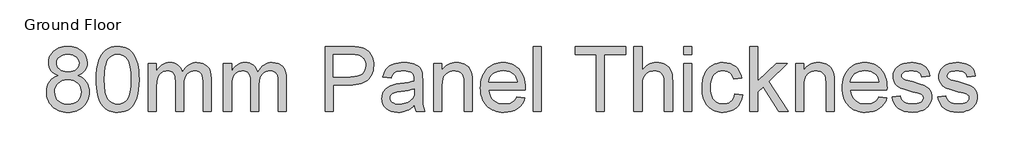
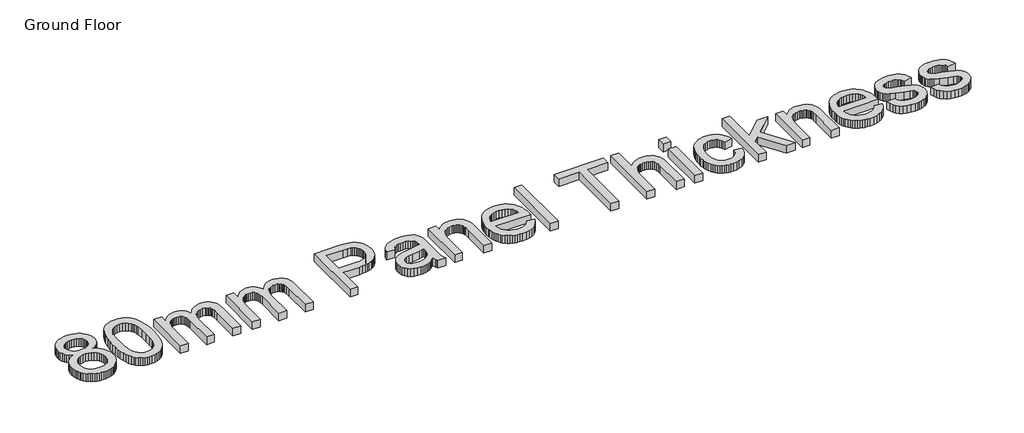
# One storey, part 7 of 8: 1 proxy.
"""IFC4 building model written with IfcOpenShell, lengths in millimetres."""

from ifc_helpers import new_model, si_unit, origin, origin_with_axes, place, context, project, spatial, polyline, outline, extrude, element, save

model = new_model("IFC4")

# Units and contexts
model_context = context("Model", 3, world=origin())
ifc_project = project(units=[si_unit("LENGTHUNIT", "METRE", prefix="MILLI")], contexts=[model_context])

# Site, building, storey
site = spatial("IfcSite", under=ifc_project)
building = spatial("IfcBuilding", under=site)
storey = spatial("IfcBuildingStorey", under=building, Name="Ground Floor", Elevation=0.0)

# Proxy
placement = place(None, origin())
element("IfcBuildingElementProxy", 1, Name="1200mm Arial", ObjectType="1200mm Arial", at=placement, inside=storey, context=model_context, shape_type="SweptSolid", body=[
    extrude(outline(polyline([(-21468.8654482, 11158.451809), (-21511.1251251, 11176.0981158), (-21547.5206329, 11197.1876044), (-21578.0519717, 11221.7202749), (-21602.7191414, 11249.6961271), (-21621.737341, 11280.8461627), (-21635.3217693, 11314.9013828), (-21643.4724262, 11351.8617877), (-21646.1893119, 11391.7273771), (-21640.2713431, 11451.6423274), (-21632.8738822, 11479.7302624), (-21622.5174369, 11506.5718374), (-21609.2020072, 11532.1670522), (-21592.9275931, 11556.515907), (-21551.5018119, 11601.4745362), (-21526.8480921, 11621.3804311), (-21500.2306826, 11638.6322067), (-21471.6495835, 11653.2298629), (-21441.1047948, 11665.1733999), (-21374.1241485, 11681.0981158), (-21299.2887437, 11686.4063544), (-21224.0946741, 11680.9725831), (-21156.6118971, 11664.6712692), (-21125.7622433, 11652.4452837), (-21096.8404127, 11637.5024127), (-21069.8464053, 11619.8426559), (-21044.780221, 11599.4660135), (-21002.6012437, 11553.6286555), (-20986.0309312, 11528.9345859), (-20972.4734028, 11503.0569226), (-20961.9286585, 11475.9956655), (-20954.3966982, 11447.7508146), (-20948.3711301, 11387.7103317), (-20951.0521492, 11349.2525014), (-20959.0952068, 11313.3591243), (-20972.5003026, 11280.0302003), (-20991.2674369, 11249.2657294), (-21015.4862757, 11221.4781761), (-21045.2464852, 11197.080005), (-21080.5480654, 11176.0712159), (-21121.3910164, 11158.451809), (-21073.1057714, 11137.9092841), (-21030.9716272, 11111.861255), (-20994.9885839, 11080.3077216), (-20965.1566414, 11043.248684), (-20941.7447984, 11001.509071), (-20925.0220534, 10955.9138118), (-20914.9884063, 10906.4629063), (-20911.6438573, 10853.1563544), (-20913.3026819, 10815.7565852), (-20918.2791556, 10779.8811413), (-20926.5732785, 10745.5300227), (-20938.1850505, 10712.7032294), (-20953.1144717, 10681.4007614), (-20971.361542, 10651.6226186), (-20992.9262615, 10623.3688011), (-21017.8086301, 10596.639309), (-21045.3989177, 10572.2949375), (-21075.0873943, 10551.1964823), (-21106.8740597, 10533.3439432), (-21140.7589141, 10518.7373203), (-21176.7419575, 10507.3766136), (-21214.8231897, 10499.2618232), (-21255.0026109, 10494.3929489), (-21297.280221, 10492.7699908), (-21339.5578311, 10494.3996738), (-21379.7372522, 10499.288723), (-21417.8184845, 10507.4371383), (-21453.8015278, 10518.8449198), (-21487.6863822, 10533.5120673), (-21519.4730477, 10551.438581), (-21549.1615242, 10572.6244608), (-21576.7518119, 10597.0697067), (-21601.6341805, 10623.9493897), (-21623.1988999, 10652.438581), (-21641.4459703, 10682.5372804), (-21656.3753914, 10714.2454879), (-21667.9871634, 10747.5632037), (-21676.2812863, 10782.4904276), (-21681.25776, 10819.0271596), (-21682.9165846, 10857.1733999), (-21679.4375363, 10912.9099055), (-21669.0003914, 10963.9120362), (-21651.6051499, 11010.1797919), (-21627.2518119, 11051.7131726), (-21596.4783744, 11087.7589823), (-21559.8228346, 11117.5640249), (-21517.2851926, 11141.1283004), (-21468.8654482, 11158.451809)]), holes=[polyline([(-21499.280221, 11387.4233999), (-21496.0253382, 11353.7447777), (-21486.2606897, 11323.2941385), (-21469.9862757, 11296.0714823), (-21447.202096, 11272.076809), (-21418.1950825, 11252.4937124), (-21383.252167, 11238.5057862), (-21342.3733495, 11230.1130305), (-21295.5586301, 11227.3154453), (-21249.9006045, 11230.0950973), (-21209.9094823, 11238.4340533), (-21175.5852636, 11252.3323132), (-21146.9279482, 11271.7898771), (-21124.3320676, 11295.2824198), (-21108.1921528, 11321.2856158), (-21098.5082039, 11349.7994652), (-21095.280221, 11380.823968), (-21098.6158034, 11413.0589645), (-21108.6225505, 11442.6219084), (-21125.3004624, 11469.5127997), (-21148.6495391, 11493.7316385), (-21177.9524511, 11513.7540994), (-21212.4918687, 11528.0558573), (-21252.267792, 11536.6369119), (-21297.280221, 11539.4972635), (-21342.6423481, 11536.6996783), (-21382.6065704, 11528.3069226), (-21417.1728879, 11514.3189965), (-21446.3413005, 11494.7358999), (-21469.5020782, 11471.2433573), (-21486.0454909, 11445.527093), (-21495.9715384, 11417.5871073), (-21499.280221, 11387.4233999)]), polyline([(-21536.0074937, 10862.3381726), (-21529.8743261, 10806.1354027), (-21511.4748232, 10751.7259567), (-21496.8502671, 10726.4849233), (-21477.5092693, 10704.2746073), (-21453.4518296, 10685.0950085), (-21424.6779482, 10668.9461271), (-21393.2947806, 10656.1417948), (-21361.4094823, 10646.995843), (-21329.0220534, 10641.508272), (-21296.1324937, 10639.6790817), (-21243.0142409, 10643.5257614), (-21196.1367551, 10655.0658004), (-21155.5000363, 10674.2991989), (-21121.1040846, 10701.2259567), (-21093.7379624, 10734.0886165), (-21074.1907323, 10771.1297209), (-21062.4623943, 10812.3492699), (-21058.5529482, 10857.7472635), (-21062.5879269, 10903.8715533), (-21074.692863, 10945.8353317), (-21094.8677565, 10983.6385987), (-21123.1126073, 11017.2813544), (-21158.4410874, 11044.8985419), (-21199.8668687, 11064.6251044), (-21247.3899511, 11076.4610419), (-21301.0103346, 11080.4063544), (-21353.3484916, 11076.5148416), (-21399.6072806, 11064.8403033), (-21439.7867018, 11045.3827394), (-21473.8867551, 11018.1421499), (-21501.0645782, 10985.0553246), (-21520.477309, 10948.0590533), (-21532.1249475, 10907.1533359), (-21536.0074937, 10862.3381726)])]), origin_with_axes(), (0.0, 0.0, 1.0), 150.0),
    extrude(outline(polyline([(-20783.0984028, 11089.3012408), (-20780.3994504, 11188.1223523), (-20772.3025931, 11277.4209141), (-20758.8078311, 11357.1969261), (-20739.9151641, 11427.4503885), (-20715.705292, 11488.7551648), (-20686.2589141, 11541.6851186), (-20651.5760306, 11586.24025), (-20611.6566414, 11622.420559), (-20566.3662472, 11650.4143445), (-20515.5703488, 11670.4099055), (-20459.2689461, 11682.4072422), (-20397.4620391, 11686.4063544), (-20351.0149511, 11684.0391669), (-20306.9350505, 11676.9376044), (-20265.2223374, 11665.1016669), (-20225.8768119, 11648.5313544), (-20189.8489355, 11627.5046321), (-20158.0891698, 11602.2994652), (-20130.597515, 11572.9158537), (-20107.373971, 11539.3537976), (-20087.2528772, 11501.7477962), (-20069.0685732, 11460.2323487), (-20038.5103346, 11365.4731158), (-20026.8357963, 11309.7455767), (-20018.4968403, 11245.1410845), (-20013.4934667, 11171.6596392), (-20011.8256755, 11089.3012408), (-20014.4977281, 10991.1077926), (-20022.5138857, 10902.2575618), (-20035.8741485, 10822.7505483), (-20054.5785164, 10752.5867521), (-20078.6000896, 10691.255076), (-20107.9119681, 10638.2444226), (-20142.5141521, 10593.5547919), (-20182.4066414, 10557.186184), (-20227.7508353, 10529.0040994), (-20278.7081329, 10508.8740391), (-20335.2785342, 10496.7960029), (-20397.4620391, 10492.7699908), (-20439.0671528, 10494.5184815), (-20478.3768119, 10499.7639538), (-20515.3910164, 10508.5064077), (-20550.1097664, 10520.745843), (-20582.5330619, 10536.48226), (-20612.6609028, 10555.7156584), (-20640.4932891, 10578.4460384), (-20666.030221, 10604.6733999), (-20693.4680761, 10646.2022972), (-20717.2475505, 10693.1739325), (-20737.3686443, 10745.5883058), (-20753.8313573, 10803.4454169), (-20766.6356897, 10866.745266), (-20775.7816414, 10935.487853), (-20781.2692124, 11009.6731779), (-20783.0984028, 11089.3012408)]), holes=[polyline([(-20636.1893119, 11089.5881726), (-20631.8853346, 10961.8766136), (-20618.9734028, 10858.5004595), (-20609.2894539, 10815.9381593), (-20597.4535164, 10779.4597102), (-20583.4655903, 10749.0651124), (-20567.3256755, 10724.7543658), (-20530.8853346, 10687.533929), (-20490.4279482, 10660.9479027), (-20445.9535164, 10644.9962869), (-20397.4620391, 10639.6790817), (-20348.9705619, 10645.0142202), (-20304.4961301, 10661.0196357), (-20264.0387437, 10687.6953281), (-20227.5984028, 10725.0412976), (-20211.458488, 10749.4103272), (-20197.4705619, 10779.8363082), (-20185.6346244, 10816.3192406), (-20175.9506755, 10858.8591243), (-20163.0387437, 10962.1097457), (-20158.7347664, 11089.5881726), (-20162.8952778, 11213.9193161), (-20175.3768119, 11315.4752465), (-20184.7379624, 11357.7125068), (-20196.1793687, 11394.2559638), (-20209.7010306, 11425.1056176), (-20225.3029482, 11450.261468), (-20261.133559, 11489.3021286), (-20302.0572096, 11517.1883146), (-20348.0738999, 11533.9200263), (-20399.1836301, 11539.4972635), (-20447.424042, 11534.5835561), (-20491.1452778, 11519.842434), (-20530.3473374, 11495.273897), (-20565.030221, 11460.8779453), (-20581.7081329, 11433.045559), (-20596.1623232, 11399.904934), (-20608.392792, 11361.4560703), (-20618.3995391, 11317.698968), (-20631.7418687, 11214.2600476), (-20636.1893119, 11089.5881726)])]), origin_with_axes(), (0.0, 0.0, 1.0), 150.0),
    extrude(outline(polyline([(-19846.5529482, 10511.1336271), (-19846.5529482, 11374.2245362), (-19699.6438573, 11374.2245362), (-19699.6438573, 11232.1932862), (-19679.1282323, 11266.5802713), (-19655.4563573, 11297.4344084), (-19628.6282323, 11324.7556975), (-19598.6438573, 11348.5441385), (-19565.9874298, 11367.8134034), (-19531.1431471, 11381.5771641), (-19494.1110093, 11389.8354205), (-19454.8910164, 11392.5881726), (-19412.0126428, 11389.7816207), (-19373.1871812, 11381.3619652), (-19338.4146315, 11367.329206), (-19307.6949937, 11347.683343), (-19281.117934, 11322.9803068), (-19258.7731187, 11293.7760277), (-19240.6605477, 11260.0705057), (-19226.780221, 11221.8637408), (-19200.9473907, 11261.8772795), (-19173.2315704, 11296.5556797), (-19143.63276, 11325.8989414), (-19112.1509596, 11349.9070646), (-19078.7861691, 11368.5800494), (-19043.5383886, 11381.9178956), (-19006.407618, 11389.9206033), (-18967.3938573, 11392.5881726), (-18908.5818012, 11388.149696), (-18856.9609738, 11374.8342663), (-18812.5313751, 11352.6418835), (-18775.2930051, 11321.5725476), (-18745.8555938, 11281.2675938), (-18724.8288715, 11231.3683573), (-18712.2128382, 11171.8748381), (-18708.0074937, 11102.7870362), (-18708.0074937, 10511.1336271), (-18854.9165846, 10511.1336271), (-18854.9165846, 11039.6620362), (-18858.3238999, 11112.9372493), (-18868.545846, 11162.3253885), (-18876.741336, 11180.1420611), (-18887.6985448, 11196.1474766), (-18901.4174724, 11210.341635), (-18917.8981187, 11222.7245362), (-18936.5397203, 11232.7671499), (-18956.7415136, 11239.9404453), (-19001.8256755, 11245.6790817), (-19043.457689, 11242.0027678), (-19081.4133886, 11230.973826), (-19115.6927742, 11212.5922564), (-19146.295846, 11186.858059), (-19171.4651464, 11153.0180377), (-19189.4432181, 11110.3189965), (-19200.2300612, 11058.7609354), (-19203.8256755, 10998.3438544), (-19203.8256755, 10511.1336271), (-19350.7347664, 10511.1336271), (-19350.7347664, 11056.0171499), (-19352.8598552, 11100.5274482), (-19359.2351215, 11139.0839112), (-19369.8605654, 11171.6865391), (-19384.7361869, 11198.3353317), (-19404.4537828, 11219.0482223), (-19429.6051499, 11233.8431442), (-19460.1902884, 11242.7200973), (-19496.2091982, 11245.6790817), (-19525.0637792, 11243.7064254), (-19552.8064994, 11237.7884567), (-19579.4373588, 11227.9251754), (-19604.9563573, 11214.1165817), (-19628.1978346, 11196.5061413), (-19647.9961301, 11175.2373203), (-19664.3512437, 11150.3101186), (-19677.2631755, 11121.7245362), (-19687.0547238, 11087.9562479), (-19694.0486869, 11047.4809283), (-19699.6438573, 10946.4091953), (-19699.6438573, 10511.1336271), (-19846.5529482, 10511.1336271)])), origin_with_axes(), (0.0, 0.0, 1.0), 150.0),
    extrude(outline(polyline([(-18487.6438573, 10511.1336271), (-18487.6438573, 11374.2245362), (-18340.7347664, 11374.2245362), (-18340.7347664, 11232.1932862), (-18320.2191414, 11266.5802713), (-18296.5472664, 11297.4344084), (-18269.7191414, 11324.7556975), (-18239.7347664, 11348.5441385), (-18207.0783389, 11367.8134034), (-18172.2340562, 11381.5771641), (-18135.2019184, 11389.8354205), (-18095.9819255, 11392.5881726), (-18053.1035519, 11389.7816207), (-18014.2780903, 11381.3619652), (-17979.5055406, 11367.329206), (-17948.7859028, 11347.683343), (-17922.2088431, 11322.9803068), (-17899.8640278, 11293.7760277), (-17881.7514568, 11260.0705057), (-17867.8711301, 11221.8637408), (-17842.0382998, 11261.8772795), (-17814.3224795, 11296.5556797), (-17784.7236691, 11325.8989414), (-17753.2418687, 11349.9070646), (-17719.8770782, 11368.5800494), (-17684.6292977, 11381.9178956), (-17647.4985271, 11389.9206033), (-17608.4847664, 11392.5881726), (-17549.6727103, 11388.149696), (-17498.0518829, 11374.8342663), (-17453.6222842, 11352.6418835), (-17416.3839141, 11321.5725476), (-17386.9465029, 11281.2675938), (-17365.9197806, 11231.3683573), (-17353.3037472, 11171.8748381), (-17349.0984028, 11102.7870362), (-17349.0984028, 10511.1336271), (-17496.0074937, 10511.1336271), (-17496.0074937, 11039.6620362), (-17499.414809, 11112.9372493), (-17509.6367551, 11162.3253885), (-17517.8322451, 11180.1420611), (-17528.7894539, 11196.1474766), (-17542.5083815, 11210.341635), (-17558.9890278, 11222.7245362), (-17577.6306293, 11232.7671499), (-17597.8324227, 11239.9404453), (-17642.9165846, 11245.6790817), (-17684.5485981, 11242.0027678), (-17722.5042977, 11230.973826), (-17756.7836833, 11212.5922564), (-17787.3867551, 11186.858059), (-17812.5560555, 11153.0180377), (-17830.5341272, 11110.3189965), (-17841.3209703, 11058.7609354), (-17844.9165846, 10998.3438544), (-17844.9165846, 10511.1336271), (-17991.8256755, 10511.1336271), (-17991.8256755, 11056.0171499), (-17993.9507643, 11100.5274482), (-18000.3260306, 11139.0839112), (-18010.9514745, 11171.6865391), (-18025.827096, 11198.3353317), (-18045.5446918, 11219.0482223), (-18070.696059, 11233.8431442), (-18101.2811975, 11242.7200973), (-18137.3001073, 11245.6790817), (-18166.1546883, 11243.7064254), (-18193.8974085, 11237.7884567), (-18220.5282678, 11227.9251754), (-18246.0472664, 11214.1165817), (-18269.2887437, 11196.5061413), (-18289.0870391, 11175.2373203), (-18305.4421528, 11150.3101186), (-18318.3540846, 11121.7245362), (-18328.1456329, 11087.9562479), (-18335.139596, 11047.4809283), (-18340.7347664, 10946.4091953), (-18340.7347664, 10511.1336271), (-18487.6438573, 10511.1336271)])), origin_with_axes(), (0.0, 0.0, 1.0), 150.0),
    extrude(outline(polyline([(-16651.280221, 10511.1336271), (-16651.280221, 11686.4063544), (-16215.717721, 11686.4063544), (-16114.2873232, 11683.6087692), (-16040.1154482, 11675.2160135), (-15999.2366308, 11666.4018267), (-15961.8189284, 11654.3058573), (-15927.862341, 11638.9281051), (-15897.3668687, 11620.2685703), (-15870.0097132, 11597.9416882), (-15845.4680761, 11571.5618942), (-15823.7419575, 11541.1291882), (-15804.8313573, 11506.6435703), (-15789.5163715, 11469.2438011), (-15778.577096, 11430.0686413), (-15772.0135306, 11389.1180909), (-15769.8256755, 11346.3921499), (-15775.7346776, 11274.2467308), (-15783.1209303, 11240.3394599), (-15793.461684, 11207.8758146), (-15806.7569388, 11176.8557951), (-15823.0066947, 11147.2794013), (-15842.2109516, 11119.1466332), (-15864.3697096, 11092.4574908), (-15890.3841139, 11068.1131193), (-15921.1553097, 11047.0146641), (-15956.6832971, 11029.162125), (-15996.9680761, 11014.5555021), (-16042.0096466, 11003.1947955), (-16091.8080086, 10995.080005), (-16146.3631622, 10990.2111307), (-16205.6751073, 10988.5881726), (-16504.3711301, 10988.5881726), (-16504.3711301, 10511.1336271), (-16651.280221, 10511.1336271)]), holes=[polyline([(-16504.3711301, 11135.4972635), (-16197.0671528, 11135.4972635), (-16126.4101926, 11138.8687124), (-16066.8001073, 11148.983059), (-16018.2368971, 11165.8403033), (-15980.7205619, 11189.4404453), (-15952.7267764, 11219.1558217), (-15932.7312153, 11254.3587692), (-15920.7338786, 11295.0492877), (-15916.7347664, 11341.2273771), (-15919.0929873, 11375.5157294), (-15926.1676499, 11407.2216953), (-15937.9587543, 11436.3452749), (-15954.4663005, 11462.886468), (-15974.8115597, 11485.9844794), (-15998.1158034, 11504.7785135), (-16024.3790313, 11519.2685703), (-16053.6012437, 11529.4546499), (-16110.2702778, 11536.9866101), (-16200.5103346, 11539.4972635), (-16504.3711301, 11539.4972635), (-16504.3711301, 11135.4972635)])]), origin_with_axes(), (0.0, 0.0, 1.0), 150.0),
    extrude(outline(polyline([(-15035.280221, 10621.3154453), (-15070.115537, 10588.6231513), (-15105.470917, 10561.1314965), (-15141.3463609, 10538.8404808), (-15177.7418687, 10521.7501044), (-15215.0699049, 10509.0713047), (-15253.742934, 10500.0150192), (-15293.7609561, 10494.5812479), (-15335.123971, 10492.7699908), (-15400.5354589, 10497.1277678), (-15457.8949227, 10510.2010987), (-15507.2023623, 10531.9899837), (-15548.4577778, 10562.4944226), (-15581.0335058, 10599.7776257), (-15604.3018829, 10641.9028033), (-15618.2629092, 10688.8699553), (-15622.9165846, 10740.6790817), (-15621.1591272, 10771.8291172), (-15615.8867551, 10801.5803601), (-15607.0994681, 10829.9328104), (-15594.7972664, 10856.886468), (-15579.6347132, 10881.8495362), (-15562.2663715, 10904.230218), (-15542.6922416, 10924.0285135), (-15520.9123232, 10941.2444226), (-15472.3132465, 10969.2202749), (-15418.0472664, 10989.448968), (-15365.1800789, 11000.7110419), (-15290.936471, 11011.542718), (-15140.7276641, 11034.7841953), (-15082.7315704, 11047.911326), (-15036.1410164, 11062.042718), (-15035.280221, 11094.7529453), (-15037.8088076, 11130.3683573), (-15045.3945676, 11160.3168658), (-15058.0375008, 11184.5984709), (-15075.7376073, 11203.2131726), (-15106.3317124, 11221.7920078), (-15143.5969823, 11235.0626044), (-15187.533417, 11243.0249624), (-15238.1410164, 11245.6790817), (-15285.1978346, 11243.9126577), (-15325.655221, 11238.6133857), (-15359.5131755, 11229.7812656), (-15386.7716982, 11217.4162976), (-15409.1703133, 11200.5500867), (-15428.4485448, 11178.2142379), (-15444.6063928, 11150.4087514), (-15457.6438573, 11117.1336271), (-15604.5529482, 11135.4972635), (-15593.371574, 11177.8197067), (-15579.0518829, 11215.8381726), (-15561.5938751, 11249.5526612), (-15540.9975505, 11278.9631726), (-15516.3752139, 11304.6615036), (-15486.8391698, 11327.239451), (-15452.3894184, 11346.6970149), (-15413.0259596, 11363.0341953), (-15369.5468225, 11375.9640604), (-15322.7500363, 11385.1996783), (-15272.6356009, 11390.741049), (-15219.2035164, 11392.5881726), (-15166.9729589, 11390.9562479), (-15119.8892409, 11386.0604737), (-15077.9523623, 11377.9008502), (-15041.1623232, 11366.4773771), (-15009.2142586, 11352.5880838), (-14981.8033034, 11337.0309993), (-14958.9294575, 11319.8061236), (-14940.592721, 11300.9134567), (-14925.7260661, 11279.8867344), (-14913.2624653, 11256.2596925), (-14895.5444255, 11201.2046499), (-14890.1644539, 11150.417718), (-14888.3711301, 11072.6591953), (-14888.3711301, 10889.8836271), (-14886.5060732, 10730.6723345), (-14880.9109028, 10634.6577749), (-14869.8640278, 10571.5686413), (-14851.6438573, 10511.1336271), (-14998.5529482, 10511.1336271), (-15011.608346, 10535.6662976), (-15022.0813573, 10562.2074908), (-15035.280221, 10621.3154453)]), holes=[polyline([(-15035.280221, 10915.1336271), (-15079.6829198, 10902.4189609), (-15133.9847664, 10890.6726896), (-15272.2859028, 10870.0853317), (-15348.502167, 10858.8232578), (-15398.6793687, 10846.2699908), (-15431.5689284, 10829.9866101), (-15455.9222664, 10807.5341953), (-15470.9861869, 10780.6343374), (-15476.0074937, 10751.0086271), (-15473.2726748, 10728.1796144), (-15465.0682181, 10707.3232578), (-15451.3941237, 10688.4395575), (-15432.2503914, 10671.5285135), (-15407.8163538, 10657.5943871), (-15378.2713431, 10647.6414396), (-15343.6153595, 10641.6696712), (-15303.8484028, 10639.6790817), (-15263.2475505, 10641.8759034), (-15224.9421528, 10648.4663686), (-15188.9322096, 10659.4504773), (-15155.217721, 10674.8282294), (-15124.8029482, 10693.3263651), (-15098.6921528, 10713.6716243), (-15076.8853346, 10735.8640071), (-15059.3824937, 10759.9035135), (-15049.2143474, 10781.4233999), (-15041.9513857, 10807.5341953), (-15037.5936088, 10838.2358999), (-15036.1410164, 10873.5285135), (-15035.280221, 10915.1336271)])]), origin_with_axes(), (0.0, 0.0, 1.0), 150.0),
    extrude(outline(polyline([(-14686.3711301, 10511.1336271), (-14686.3711301, 11374.2245362), (-14539.4620391, 11374.2245362), (-14539.4620391, 11253.7131726), (-14515.2252671, 11286.2620007), (-14488.424042, 11314.4709851), (-14459.0583637, 11338.3401257), (-14427.1282323, 11357.8694226), (-14392.6336478, 11373.0588757), (-14355.5746102, 11383.9084851), (-14315.9511194, 11390.4182507), (-14273.7631755, 11392.5881726), (-14236.7938041, 11390.8396818), (-14201.3487579, 11385.5942095), (-14167.428037, 11376.8517557), (-14135.0316414, 11364.6123203), (-14105.387998, 11349.5304666), (-14079.7255335, 11332.2607578), (-14058.044248, 11312.8031939), (-14040.3441414, 11291.1577749), (-14013.6236159, 11241.4109709), (-13996.3001073, 11183.1279453), (-13990.489738, 11127.3914396), (-13988.5529482, 11041.0966953), (-13988.5529482, 10511.1336271), (-14135.4620391, 10511.1336271), (-14135.4620391, 11021.2983999), (-14139.6942835, 11097.2635987), (-14144.9845889, 11127.0148416), (-14152.3910164, 11151.2785135), (-14162.4784632, 11171.7134389), (-14175.8118261, 11189.9784425), (-14192.3911052, 11206.0735242), (-14212.2163005, 11219.998684), (-14234.605949, 11231.233858), (-14258.8785874, 11239.2589823), (-14285.034216, 11244.0740568), (-14313.0728346, 11245.6790817), (-14357.6817657, 11242.0745007), (-14399.1165136, 11231.2607578), (-14437.3770782, 11213.237853), (-14472.4634596, 11188.0057862), (-14488.1662517, 11171.9689876), (-14501.7753382, 11152.6952394), (-14513.290719, 11130.1845416), (-14522.7123943, 11104.4368942), (-14535.2746279, 11043.2307507), (-14539.4620391, 10969.076809), (-14539.4620391, 10511.1336271), (-14686.3711301, 10511.1336271)])), origin_with_axes(), (0.0, 0.0, 1.0), 150.0),
    extrude(outline(polyline([(-13182.2745391, 10768.2245362), (-13038.2347664, 10749.8608999), (-13060.3195498, 10692.1696712), (-13090.133559, 10641.3289396), (-13127.6767941, 10597.3387053), (-13172.9492551, 10560.198968), (-13225.4846776, 10530.6987905), (-13284.8167977, 10509.6272351), (-13350.9456151, 10496.9843019), (-13423.8711301, 10492.7699908), (-13470.6903328, 10494.5879728), (-13515.025782, 10500.041919), (-13556.8774777, 10509.1318294), (-13596.2454198, 10521.8577038), (-13633.1296084, 10538.2195424), (-13667.5300434, 10558.2173452), (-13699.4467249, 10581.851112), (-13728.8796528, 10609.120843), (-13755.3087632, 10639.6723567), (-13778.2139923, 10673.1514716), (-13797.5953399, 10709.5581877), (-13813.4528062, 10748.892505), (-13825.7863911, 10791.1544235), (-13834.5960945, 10836.3439432), (-13839.8819166, 10884.4610641), (-13841.6438573, 10935.5057862), (-13839.8639834, 10988.2877908), (-13834.5243616, 11038.0301115), (-13825.6249919, 11084.7327482), (-13813.1658744, 11128.395701), (-13797.147009, 11169.0189698), (-13777.5683957, 11206.6025547), (-13754.4300345, 11241.1464556), (-13727.7319255, 11272.6506726), (-13698.1958815, 11300.7610242), (-13666.5437153, 11325.1233288), (-13632.7754269, 11345.7375867), (-13596.8910164, 11362.6037976), (-13558.8904838, 11375.7219617), (-13518.7738289, 11385.0920788), (-13476.5410519, 11390.7141492), (-13432.1921528, 11392.5881726), (-13389.2936043, 11390.7186325), (-13348.3990953, 11385.1100121), (-13309.5086256, 11375.7623114), (-13272.6221954, 11362.6755305), (-13237.7398046, 11345.8496694), (-13204.8614532, 11325.284728), (-13173.9871412, 11300.9807063), (-13145.1168687, 11272.9376044), (-13118.9903817, 11241.5051204), (-13096.3474262, 11207.0329524), (-13077.1880024, 11169.5211005), (-13061.5121102, 11128.9695646), (-13049.3197496, 11085.3783448), (-13040.6109205, 11038.7474411), (-13035.3856231, 10989.0768533), (-13033.6438573, 10936.3665817), (-13034.5046528, 10896.7699908), (-13694.7347664, 10896.7699908), (-13686.2254447, 10838.1462337), (-13669.305434, 10786.8033715), (-13643.9747345, 10742.7414041), (-13610.233346, 10705.9603317), (-13569.9463254, 10676.9622848), (-13524.9787295, 10656.2493942), (-13475.3305583, 10643.8216598), (-13421.0018119, 10639.6790817), (-13380.3650931, 10641.5979382), (-13342.8128914, 10647.3545078), (-13308.3452068, 10656.9487905), (-13276.9620391, 10670.3807862), (-13248.6633886, 10688.0091598), (-13223.4492551, 10710.192576), (-13201.3196386, 10736.9310348), (-13182.2745391, 10768.2245362)]), holes=[polyline([(-13694.7347664, 11043.6790817), (-13180.5529482, 11043.6790817), (-13188.1028417, 11085.2483288), (-13200.4229766, 11121.2941385), (-13217.5133531, 11151.8165107), (-13239.373971, 11176.8154453), (-13279.4368261, 11206.9432862), (-13325.0231187, 11228.4631726), (-13376.1328488, 11241.3751044), (-13432.7660164, 11245.6790817), (-13484.4227103, 11242.2448665), (-13531.7933602, 11231.9422209), (-13574.877966, 11214.7711449), (-13613.6765278, 11190.7316385), (-13646.2343225, 11160.9355625), (-13670.5966272, 11126.4947777), (-13686.7634418, 11087.4092841), (-13694.7347664, 11043.6790817)])]), origin_with_axes(), (0.0, 0.0, 1.0), 150.0),
    extrude(outline(polyline([(-12886.7347664, 10511.1336271), (-12886.7347664, 11686.4063544), (-12739.8256755, 11686.4063544), (-12739.8256755, 10511.1336271), (-12886.7347664, 10511.1336271)])), origin_with_axes(), (0.0, 0.0, 1.0), 150.0),
    extrude(outline(polyline([(-11748.1893119, 10511.1336271), (-11748.1893119, 11539.4972635), (-12133.8256755, 11539.4972635), (-12133.8256755, 11686.4063544), (-11215.6438573, 11686.4063544), (-11215.6438573, 11539.4972635), (-11601.280221, 11539.4972635), (-11601.280221, 10511.1336271), (-11748.1893119, 10511.1336271)])), origin_with_axes(), (0.0, 0.0, 1.0), 150.0),
    extrude(outline(polyline([(-11068.7347664, 10511.1336271), (-11068.7347664, 11686.4063544), (-10921.8256755, 11686.4063544), (-10921.8256755, 11254.2870362), (-10895.6745303, 11286.7013651), (-10867.8645605, 11314.7937834), (-10838.3957661, 11338.5642912), (-10807.2681471, 11358.0128885), (-10774.4817036, 11373.1395753), (-10740.0364355, 11383.9443516), (-10703.9323428, 11390.4272173), (-10666.1694255, 11392.5881726), (-10620.2424014, 11390.2299517), (-10577.4357607, 11383.1552891), (-10537.7495036, 11371.3641847), (-10501.1836301, 11354.8566385), (-10468.6706684, 11334.188581), (-10441.1431471, 11309.9159425), (-10418.6010661, 11282.038723), (-10401.0444255, 11250.5569226), (-10387.8634951, 11213.5247848), (-10378.4485448, 11168.9965533), (-10372.7995747, 11116.972228), (-10370.9165846, 11057.451809), (-10370.9165846, 10511.1336271), (-10517.8256755, 10511.1336271), (-10517.8256755, 11042.2444226), (-10520.7487934, 11091.8477607), (-10529.5181471, 11134.2060703), (-10544.1337366, 11169.3193516), (-10564.5955619, 11197.1876044), (-10590.4194255, 11218.4026257), (-10621.1211301, 11233.5562124), (-10656.7006755, 11242.6483644), (-10697.1580619, 11245.6790817), (-10728.6757288, 11243.6346925), (-10759.242934, 11237.5015249), (-10788.8596776, 11227.2795788), (-10817.5259596, 11212.9688544), (-10843.6905548, 11195.1611484), (-10865.802238, 11174.4482578), (-10883.8610093, 11150.8301825), (-10897.8668687, 11124.3069226), (-10908.3488467, 11093.6590178), (-10915.8359738, 11057.6670078), (-10920.3282501, 11016.3308928), (-10921.8256755, 10969.6506726), (-10921.8256755, 10511.1336271), (-11068.7347664, 10511.1336271)])), origin_with_axes(), (0.0, 0.0, 1.0), 150.0),
    extrude(outline(polyline([(-10168.9165846, 10511.1336271), (-10168.9165846, 11374.2245362), (-10022.0074937, 11374.2245362), (-10022.0074937, 10511.1336271), (-10168.9165846, 10511.1336271)])), origin_with_axes(), (0.0, 0.0, 1.0), 150.0),
    extrude(outline(polyline([(-10168.9165846, 11539.4972635), (-10168.9165846, 11686.4063544), (-10022.0074937, 11686.4063544), (-10022.0074937, 11539.4972635), (-10168.9165846, 11539.4972635)])), origin_with_axes(), (0.0, 0.0, 1.0), 150.0),
    extrude(outline(polyline([(-9250.7347664, 10823.3154453), (-9103.8256755, 10804.951809), (-9119.8041911, 10735.630875), (-9144.7851926, 10674.2902323), (-9178.7686798, 10620.9298807), (-9221.7546528, 10575.5498203), (-9271.9318545, 10539.3336449), (-9327.4890278, 10513.4649482), (-9388.4261727, 10497.9437301), (-9454.7432891, 10492.7699908), (-9497.0052077, 10494.5745229), (-9537.1375541, 10499.9881193), (-9575.1403284, 10509.01078), (-9611.0135306, 10521.642505), (-9644.7571608, 10537.8832942), (-9676.3712188, 10557.7331477), (-9705.8557048, 10581.1920655), (-9733.2106187, 10608.2600476), (-9757.8576135, 10638.6994785), (-9779.2183424, 10672.2727429), (-9797.2928053, 10708.9798407), (-9812.0810022, 10748.820772), (-9823.5829331, 10791.7955368), (-9831.7985981, 10837.904135), (-9836.7279971, 10887.1465666), (-9838.3711301, 10939.5228317), (-9835.5645782, 11007.068375), (-9827.1449227, 11070.2561413), (-9813.1121634, 11129.0861307), (-9793.4663005, 11183.558343), (-9768.0728346, 11232.5788509), (-9736.7972664, 11275.0537266), (-9699.639596, 11310.9829702), (-9656.5998232, 11340.3665817), (-9609.6237046, 11363.2135277), (-9560.6569965, 11379.5327749), (-9509.699699, 11389.3243232), (-9456.7518119, 11392.5881726), (-9391.5734561, 11388.1048629), (-9332.617934, 11374.654934), (-9279.8852458, 11352.2383857), (-9233.3753914, 11320.855218), (-9193.8774333, 11281.2227607), (-9162.180434, 11234.058343), (-9138.2843936, 11179.3619652), (-9122.1893119, 11117.1336271), (-9269.0984028, 11098.7699908), (-9280.5667089, 11133.0852429), (-9295.7471954, 11162.8633857), (-9314.6398623, 11188.104419), (-9337.2447096, 11208.808343), (-9362.9878737, 11224.9392912), (-9391.2954909, 11236.461397), (-9422.1675612, 11243.3746605), (-9455.6040846, 11245.6790817), (-9505.5212543, 11241.1419723), (-9550.5426499, 11227.5306442), (-9590.6682714, 11204.8450973), (-9625.8981187, 11173.0853317), (-9641.2646626, 11153.6188011), (-9654.5823339, 11131.5160845), (-9675.071059, 11079.402093), (-9687.3642941, 11016.7433573), (-9691.4620391, 10943.5398771), (-9687.4539603, 10869.2335029), (-9675.4297238, 10805.8484709), (-9655.3893296, 10753.3847813), (-9642.3630734, 10731.2484398), (-9627.3327778, 10711.842434), (-9592.8023268, 10680.2709673), (-9553.3402352, 10657.7199198), (-9508.9465029, 10644.1892912), (-9459.6211301, 10639.6790817), (-9419.8721066, 10642.4946002), (-9383.5483318, 10650.9411555), (-9350.6498055, 10665.0187479), (-9321.1765278, 10684.7273771), (-9295.9534276, 10710.2822422), (-9275.805434, 10741.8985419), (-9260.732547, 10779.5762763), (-9250.7347664, 10823.3154453)])), origin_with_axes(), (0.0, 0.0, 1.0), 150.0),
    extrude(outline(polyline([(-8975.280221, 10511.1336271), (-8975.280221, 11686.4063544), (-8828.3711301, 11686.4063544), (-8828.3711301, 11054.8694226), (-8498.9734028, 11374.2245362), (-8295.8256755, 11374.2245362), (-8629.2404482, 11050.8523771), (-8277.4620391, 10511.1336271), (-8449.0472664, 10511.1336271), (-8734.5444255, 10948.7046499), (-8828.3711301, 10857.7472635), (-8828.3711301, 10511.1336271), (-8975.280221, 10511.1336271)])), origin_with_axes(), (0.0, 0.0, 1.0), 150.0),
    extrude(outline(polyline([(-8148.9165846, 10511.1336271), (-8148.9165846, 11374.2245362), (-8002.0074937, 11374.2245362), (-8002.0074937, 11253.7131726), (-7977.7707217, 11286.2620007), (-7950.9694965, 11314.4709851), (-7921.6038183, 11338.3401257), (-7889.6736869, 11357.8694226), (-7855.1791024, 11373.0588757), (-7818.1200647, 11383.9084851), (-7778.496574, 11390.4182507), (-7736.3086301, 11392.5881726), (-7699.3392586, 11390.8396818), (-7663.8942124, 11385.5942095), (-7629.9734916, 11376.8517557), (-7597.577096, 11364.6123203), (-7567.9334525, 11349.5304666), (-7542.270988, 11332.2607578), (-7520.5897025, 11312.8031939), (-7502.889596, 11291.1577749), (-7476.1690704, 11241.4109709), (-7458.8455619, 11183.1279453), (-7453.0351926, 11127.3914396), (-7451.0984028, 11041.0966953), (-7451.0984028, 10511.1336271), (-7598.0074937, 10511.1336271), (-7598.0074937, 11021.2983999), (-7602.239738, 11097.2635987), (-7607.5300434, 11127.0148416), (-7614.936471, 11151.2785135), (-7625.0239177, 11171.7134389), (-7638.3572806, 11189.9784425), (-7654.9365597, 11206.0735242), (-7674.7617551, 11219.998684), (-7697.1514035, 11231.233858), (-7721.424042, 11239.2589823), (-7747.5796705, 11244.0740568), (-7775.6182891, 11245.6790817), (-7820.2272203, 11242.0745007), (-7861.6619681, 11231.2607578), (-7899.9225328, 11213.237853), (-7935.0089141, 11188.0057862), (-7950.7117062, 11171.9689876), (-7964.3207927, 11152.6952394), (-7975.8361736, 11130.1845416), (-7985.2578488, 11104.4368942), (-7997.8200825, 11043.2307507), (-8002.0074937, 10969.076809), (-8002.0074937, 10511.1336271), (-8148.9165846, 10511.1336271)])), origin_with_axes(), (0.0, 0.0, 1.0), 150.0),
    extrude(outline(polyline([(-6644.8199937, 10768.2245362), (-6500.780221, 10749.8608999), (-6522.8650043, 10692.1696712), (-6552.6790136, 10641.3289396), (-6590.2222487, 10597.3387053), (-6635.4947096, 10560.198968), (-6688.0301322, 10530.6987905), (-6747.3622522, 10509.6272351), (-6813.4910697, 10496.9843019), (-6886.4165846, 10492.7699908), (-6933.2357874, 10494.5879728), (-6977.5712366, 10500.041919), (-7019.4229323, 10509.1318294), (-7058.7908744, 10521.8577038), (-7095.6750629, 10538.2195424), (-7130.075498, 10558.2173452), (-7161.9921794, 10581.851112), (-7191.4251073, 10609.120843), (-7217.8542178, 10639.6723567), (-7240.7594468, 10673.1514716), (-7260.1407945, 10709.5581877), (-7275.9982607, 10748.892505), (-7288.3318456, 10791.1544235), (-7297.1415491, 10836.3439432), (-7302.4273712, 10884.4610641), (-7304.1893119, 10935.5057862), (-7302.4094379, 10988.2877908), (-7297.0698161, 11038.0301115), (-7288.1704465, 11084.7327482), (-7275.7113289, 11128.395701), (-7259.6924635, 11169.0189698), (-7240.1138502, 11206.6025547), (-7216.9754891, 11241.1464556), (-7190.2773801, 11272.6506726), (-7160.741336, 11300.7610242), (-7129.0891698, 11325.1233288), (-7095.3208815, 11345.7375867), (-7059.436471, 11362.6037976), (-7021.4359383, 11375.7219617), (-6981.3192835, 11385.0920788), (-6939.0865065, 11390.7141492), (-6894.7376073, 11392.5881726), (-6851.8390589, 11390.7186325), (-6810.9445498, 11385.1100121), (-6772.0540802, 11375.7623114), (-6735.1676499, 11362.6755305), (-6700.2852591, 11345.8496694), (-6667.4069078, 11325.284728), (-6636.5325958, 11300.9807063), (-6607.6623232, 11272.9376044), (-6581.5358362, 11241.5051204), (-6558.8928808, 11207.0329524), (-6539.7334569, 11169.5211005), (-6524.0575647, 11128.9695646), (-6511.8652041, 11085.3783448), (-6503.1563751, 11038.7474411), (-6497.9310777, 10989.0768533), (-6496.1893119, 10936.3665817), (-6497.0501073, 10896.7699908), (-7157.280221, 10896.7699908), (-7148.7708992, 10838.1462337), (-7131.8508886, 10786.8033715), (-7106.520189, 10742.7414041), (-7072.7788005, 10705.9603317), (-7032.4917799, 10676.9622848), (-6987.524184, 10656.2493942), (-6937.8760129, 10643.8216598), (-6883.5472664, 10639.6790817), (-6842.9105477, 10641.5979382), (-6805.358346, 10647.3545078), (-6770.8906613, 10656.9487905), (-6739.5074937, 10670.3807862), (-6711.2088431, 10688.0091598), (-6685.9947096, 10710.192576), (-6663.8650931, 10736.9310348), (-6644.8199937, 10768.2245362)]), holes=[polyline([(-7157.280221, 11043.6790817), (-6643.0984028, 11043.6790817), (-6650.6482963, 11085.2483288), (-6662.9684312, 11121.2941385), (-6680.0588076, 11151.8165107), (-6701.9194255, 11176.8154453), (-6741.9822806, 11206.9432862), (-6787.5685732, 11228.4631726), (-6838.6783034, 11241.3751044), (-6895.311471, 11245.6790817), (-6946.9681649, 11242.2448665), (-6994.3388147, 11231.9422209), (-7037.4234205, 11214.7711449), (-7076.2219823, 11190.7316385), (-7108.7797771, 11160.9355625), (-7133.1420818, 11126.4947777), (-7149.3088964, 11087.4092841), (-7157.280221, 11043.6790817)])]), origin_with_axes(), (0.0, 0.0, 1.0), 150.0),
    extrude(outline(polyline([(-6404.3711301, 10768.2245362), (-6257.4620391, 10786.5881726), (-6248.585086, 10753.0888828), (-6234.2922948, 10723.7501044), (-6214.5836656, 10698.5718374), (-6189.4591982, 10677.5540817), (-6158.8471599, 10660.9837692), (-6122.6758176, 10649.1478317), (-6080.9451713, 10642.0462692), (-6033.655221, 10639.6790817), (-5986.4190704, 10641.8490036), (-5945.7106187, 10648.3587692), (-5911.5298659, 10659.2083786), (-5883.8768119, 10674.3978317), (-5862.5362579, 10692.5104027), (-5847.2930051, 10712.1293658), (-5838.1470534, 10733.2547209), (-5835.0984028, 10755.886468), (-5838.1649866, 10775.72063), (-5847.364738, 10793.3310703), (-5862.697657, 10808.7177891), (-5884.1637437, 10821.8807862), (-5939.1829198, 10840.5313544), (-6035.3768119, 10863.7728317), (-6169.4457039, 10902.5444936), (-6256.6012437, 10935.6492521), (-6286.5228524, 10952.2464645), (-6312.5888147, 10971.7667948), (-6334.7991308, 10994.2102429), (-6353.1538005, 11019.576809), (-6367.5272913, 11047.1043303), (-6377.7940704, 11076.0306442), (-6383.9541379, 11106.3557507), (-6386.0074937, 11138.0796499), (-6384.3576357, 11167.0866634), (-6379.4080619, 11194.9997493), (-6371.1587721, 11221.8189077), (-6359.6097664, 11247.5441385), (-6345.2093758, 11271.6553779), (-6328.4059312, 11293.6325618), (-6309.1994326, 11313.4756904), (-6287.5898801, 11331.1847635), (-6247.0248943, 11354.820772), (-6194.1935732, 11374.654934), (-6133.1129624, 11388.1048629), (-6067.8001073, 11392.5881726), (-6018.4299014, 11390.7858821), (-5972.1800789, 11385.3790107), (-5929.05064, 11376.3675582), (-5889.0415846, 11363.7515249), (-5853.1033744, 11348.0599411), (-5822.186471, 11329.8218374), (-5796.2908744, 11309.0372138), (-5775.4165846, 11285.7060703), (-5758.4876073, 11259.0124446), (-5744.4279482, 11228.1403743), (-5733.2376073, 11193.0898594), (-5724.9165846, 11153.8608999), (-5871.8256755, 11135.4972635), (-5878.8286052, 11160.0389006), (-5890.3686443, 11181.7291527), (-5906.4457927, 11200.5680199), (-5927.0600505, 11216.5555021), (-5952.3010839, 11229.2970682), (-5982.258559, 11238.3981868), (-6016.9324759, 11243.858858), (-6056.3228346, 11245.6790817), (-6102.0167266, 11243.9395575), (-6140.6807891, 11238.7209851), (-6172.3150221, 11230.0233644), (-6196.9194255, 11217.8466953), (-6215.3727281, 11203.3566385), (-6228.5536585, 11187.7188544), (-6236.4622167, 11170.933343), (-6239.0984028, 11153.0001044), (-6234.7226926, 11130.4042237), (-6221.5955619, 11110.2472635), (-6199.1431471, 11092.2422919), (-6166.7915846, 11077.823968), (-6040.2546528, 11046.5483999), (-5910.4538715, 11008.1712692), (-5824.6253914, 10977.3978317), (-5794.4258176, 10962.3877109), (-5767.6694255, 10944.3289396), (-5744.3562153, 10923.2215178), (-5724.4861869, 10899.0654453), (-5708.6063041, 10871.8248558), (-5697.2635306, 10841.4638828), (-5690.4578666, 10807.9825263), (-5688.1893119, 10771.3807862), (-5690.8523978, 10734.617647), (-5698.8416556, 10698.9305021), (-5712.1570853, 10664.3193516), (-5730.7986869, 10630.7841953), (-5754.4615953, 10599.6610597), (-5782.8409454, 10572.2859709), (-5815.9367373, 10548.658929), (-5853.748971, 10528.779934), (-5895.2464852, 10513.0255838), (-5939.3981187, 10501.7724766), (-5986.2038715, 10495.0206122), (-6035.6637437, 10492.7699908), (-6114.7313928, 10497.1098345), (-6183.7922948, 10510.1293658), (-6242.8464497, 10531.8285845), (-6291.8938573, 10562.2074908), (-6331.9567124, 10601.1226186), (-6364.0572096, 10648.4305021), (-6388.1953488, 10704.1311413), (-6404.3711301, 10768.2245362)])), origin_with_axes(), (0.0, 0.0, 1.0), 150.0),
    extrude(outline(polyline([(-5578.0074937, 10768.2245362), (-5431.0984028, 10786.5881726), (-5422.2214497, 10753.0888828), (-5407.9286585, 10723.7501044), (-5388.2200292, 10698.5718374), (-5363.0955619, 10677.5540817), (-5332.4835235, 10660.9837692), (-5296.3121812, 10649.1478317), (-5254.5815349, 10642.0462692), (-5207.2915846, 10639.6790817), (-5160.055434, 10641.8490036), (-5119.3469823, 10648.3587692), (-5085.1662295, 10659.2083786), (-5057.5131755, 10674.3978317), (-5036.1726215, 10692.5104027), (-5020.9293687, 10712.1293658), (-5011.783417, 10733.2547209), (-5008.7347664, 10755.886468), (-5011.8013502, 10775.72063), (-5021.0011016, 10793.3310703), (-5036.3340207, 10808.7177891), (-5057.8001073, 10821.8807862), (-5112.8192835, 10840.5313544), (-5209.0131755, 10863.7728317), (-5343.0820676, 10902.5444936), (-5430.2376073, 10935.6492521), (-5460.159216, 10952.2464645), (-5486.2251784, 10971.7667948), (-5508.4354944, 10994.2102429), (-5526.7901641, 11019.576809), (-5541.1636549, 11047.1043303), (-5551.430434, 11076.0306442), (-5557.5905015, 11106.3557507), (-5559.6438573, 11138.0796499), (-5557.9939994, 11167.0866634), (-5553.0444255, 11194.9997493), (-5544.7951357, 11221.8189077), (-5533.2461301, 11247.5441385), (-5518.8457394, 11271.6553779), (-5502.0422948, 11293.6325618), (-5482.8357963, 11313.4756904), (-5461.2262437, 11331.1847635), (-5420.6612579, 11354.820772), (-5367.8299369, 11374.654934), (-5306.7493261, 11388.1048629), (-5241.436471, 11392.5881726), (-5192.066265, 11390.7858821), (-5145.8164426, 11385.3790107), (-5102.6870036, 11376.3675582), (-5062.6779482, 11363.7515249), (-5026.739738, 11348.0599411), (-4995.8228346, 11329.8218374), (-4969.927238, 11309.0372138), (-4949.0529482, 11285.7060703), (-4932.123971, 11259.0124446), (-4918.0643119, 11228.1403743), (-4906.873971, 11193.0898594), (-4898.5529482, 11153.8608999), (-5045.4620391, 11135.4972635), (-5052.4649688, 11160.0389006), (-5064.0050079, 11181.7291527), (-5080.0821563, 11200.5680199), (-5100.6964141, 11216.5555021), (-5125.9374475, 11229.2970682), (-5155.8949227, 11238.3981868), (-5190.5688396, 11243.858858), (-5229.9591982, 11245.6790817), (-5275.6530903, 11243.9395575), (-5314.3171528, 11238.7209851), (-5345.9513857, 11230.0233644), (-5370.5557891, 11217.8466953), (-5389.0090917, 11203.3566385), (-5402.1900221, 11187.7188544), (-5410.0985803, 11170.933343), (-5412.7347664, 11153.0001044), (-5408.3590562, 11130.4042237), (-5395.2319255, 11110.2472635), (-5372.7795107, 11092.2422919), (-5340.4279482, 11077.823968), (-5213.8910164, 11046.5483999), (-5084.0902352, 11008.1712692), (-4998.2617551, 10977.3978317), (-4968.0621812, 10962.3877109), (-4941.3057891, 10944.3289396), (-4917.9925789, 10923.2215178), (-4898.1225505, 10899.0654453), (-4882.2426677, 10871.8248558), (-4870.8998943, 10841.4638828), (-4864.0942302, 10807.9825263), (-4861.8256755, 10771.3807862), (-4864.4887615, 10734.617647), (-4872.4780193, 10698.9305021), (-4885.793449, 10664.3193516), (-4904.4350505, 10630.7841953), (-4928.0979589, 10599.6610597), (-4956.477309, 10572.2859709), (-4989.5731009, 10548.658929), (-5027.3853346, 10528.779934), (-5068.8828488, 10513.0255838), (-5113.0344823, 10501.7724766), (-5159.8402352, 10495.0206122), (-5209.3001073, 10492.7699908), (-5288.3677565, 10497.1098345), (-5357.4286585, 10510.1293658), (-5416.4828133, 10531.8285845), (-5465.530221, 10562.2074908), (-5505.5930761, 10601.1226186), (-5537.6935732, 10648.4305021), (-5561.8317124, 10704.1311413), (-5578.0074937, 10768.2245362)])), origin_with_axes(), (0.0, 0.0, 1.0), 150.0),
])

save(model, "model.ifc")
